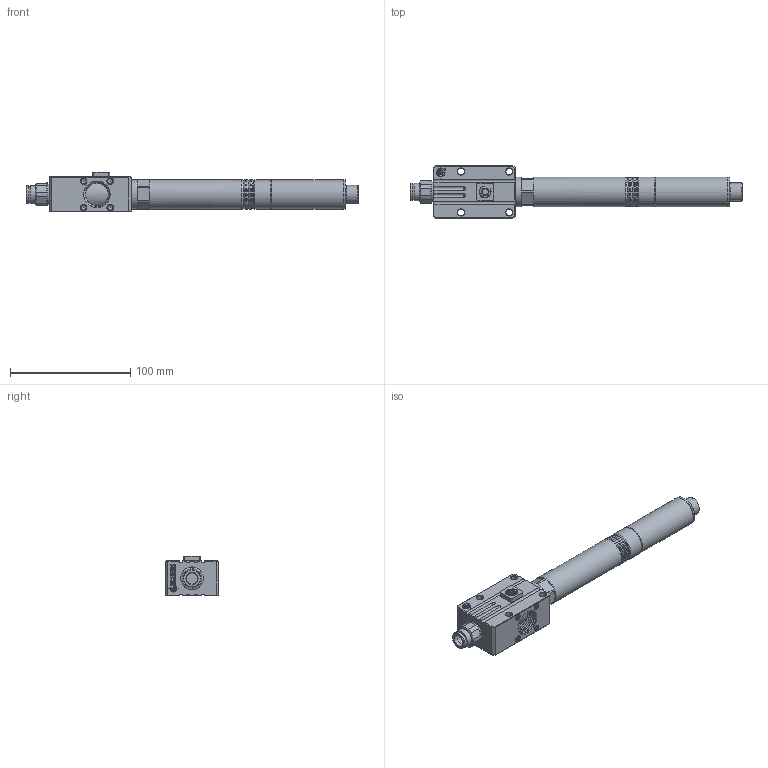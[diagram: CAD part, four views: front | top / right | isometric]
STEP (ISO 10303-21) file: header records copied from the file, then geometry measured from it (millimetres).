
FILE_DESCRIPTION (( 'STEP AP214' ), '1' );
FILE_NAME ('STEP- GRIP.STEP', '2023-12-20T07:46:05', ( '' ), ( '' ), 'SwSTEP 2.0', 'SolidWorks 2021', '' );
FILE_SCHEMA (( 'AUTOMOTIVE_DESIGN' ));
Length unit declared in the file: millimetre
Products named in the file (1): STEP- GRIP
Bounding box: 275.7 x 44 x 33 mm (x, y, z)
Volume: 165208 mm3; surface area: 35548.6 mm2
Topology: 2 solids, 5 shells, 1594 faces, 4339 edges, 2875 vertices
Faces by surface type: plane 1168, bspline 190, cylinder 181, cone 38, torus 13, sphere 4
Full cylindrical faces by diameter (mm): 4.2 x72, 5.5 x4, 9.44 x1, 10 x2, 11 x2, 12 x1, 14.5 x1, 14.76 x1, 15 x1, 17 x1, 19 x1, 23.036 x3, 24.5 x6, 27 x1, 27.2 x1
Entity records: 104339 total; most frequent: CARTESIAN_POINT 51421, ORIENTED_EDGE 7982, DIRECTION 6414, EDGE_CURVE 3991, LINE 3218, VECTOR 3218, VERTEX_POINT 2685, EDGE_LOOP 1738
